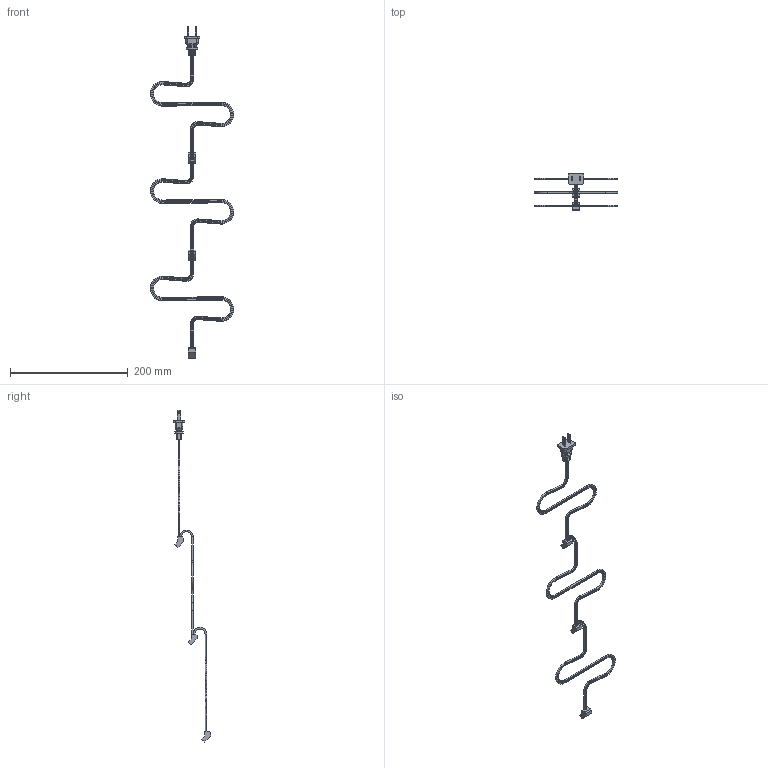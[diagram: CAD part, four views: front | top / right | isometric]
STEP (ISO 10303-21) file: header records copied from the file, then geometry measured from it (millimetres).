
FILE_DESCRIPTION(/* description */ (''),/* implementation_level */ '2;1');
FILE_NAME(/* name */ 'E:\Manufacturing\drawings\Web Drawings\Fan Cords\STEP''s\DNFCDC3PG.stp',/* time_stamp */ '2018-12-03T07:38:10-05:00',/* author */ ('tfoster'),/* organization */ (''),/* preprocessor_version */ 'ST-DEVELOPER v16.13',/* originating_system */ 'Autodesk Inventor 2018',/* authorisation */ '');
FILE_SCHEMA (('AUTOMOTIVE_DESIGN { 1 0 10303 214 3 1 1 }'));
Length unit declared in the file: millimetre
Products named in the file (4): DNFCDC3PG; 12 inch cord; 12 inch cord 2; cord 2
Assembly tree (4 placements, depth 2):
  DNFCDC3PG
    12 inch cord  x2
    12 inch cord 2
    cord 2
Bounding box: 141.74 x 63 x 562.95 mm (x, y, z)
Volume: 31442.7 mm3; surface area: 26883 mm2
Topology: 4 solids, 4 shells, 375 faces, 959 edges, 606 vertices
Faces by surface type: cylinder 136, plane 129, torus 96, bspline 10, sphere 4
Full cylindrical faces by diameter (mm): 3.2 x2
Entity records: 9186 total; most frequent: CARTESIAN_POINT 1843, DIRECTION 1604, ORIENTED_EDGE 1468, EDGE_CURVE 734, AXIS2_PLACEMENT_3D 605, VERTEX_POINT 466, LINE 394, VECTOR 394
